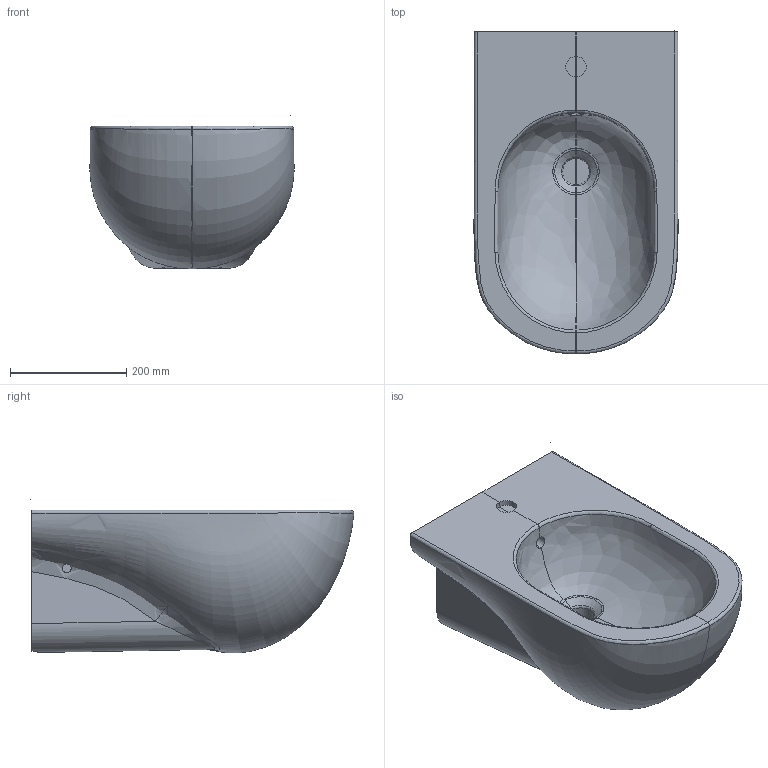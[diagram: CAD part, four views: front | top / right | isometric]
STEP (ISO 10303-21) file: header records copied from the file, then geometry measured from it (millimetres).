
FILE_DESCRIPTION (( 'STEP AP203' ), '1' );
FILE_NAME ('NUBKS000000M.STEP', '2019-05-27T14:40:49', ( '' ), ( '' ), 'SwSTEP 2.0', 'SolidWorks 2019', '' );
FILE_SCHEMA (( 'CONFIG_CONTROL_DESIGN' ));
Products named in the file (1): NUBKS000000M
Bounding box: 351.15 x 556.8 x 264.59 mm (x, y, z)
Volume: 24659916.6 mm3; surface area: 872877.3 mm2
Topology: 3 solids, 3 shells, 104 faces, 285 edges, 191 vertices
Faces by surface type: plane 37, cylinder 36, bspline 23, torus 6, cone 2
Entity records: 62240 total; most frequent: CARTESIAN_POINT 59654, ORIENTED_EDGE 570, DIRECTION 472, EDGE_CURVE 285, VERTEX_POINT 191, AXIS2_PLACEMENT_3D 178, VECTOR 116, LINE 116
